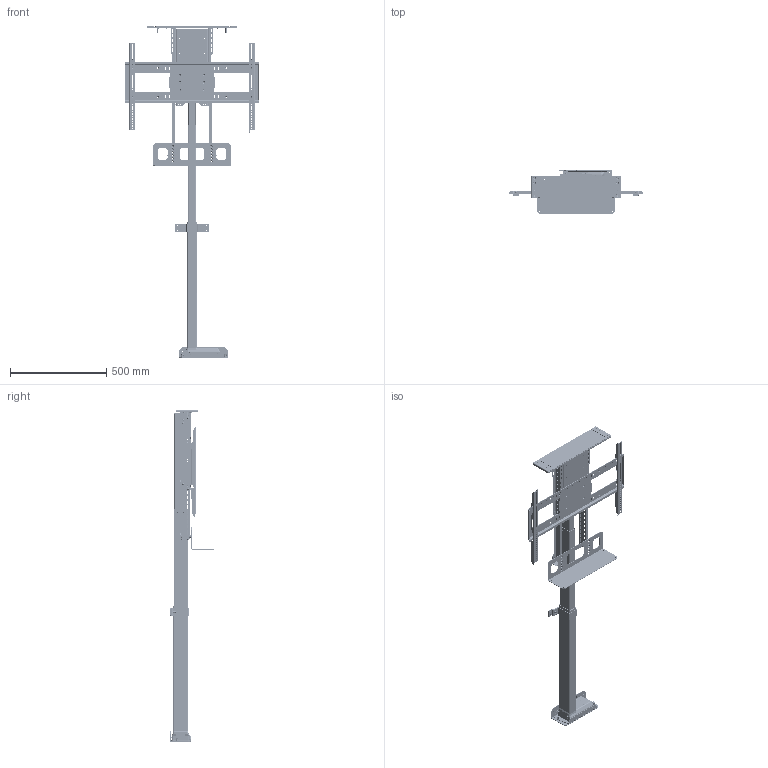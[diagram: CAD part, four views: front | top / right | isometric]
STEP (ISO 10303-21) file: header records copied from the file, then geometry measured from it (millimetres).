
FILE_DESCRIPTION(/* description */ ('STEP AP242','CAx-IF Rec.Pracs.---Representation and Presentation of Product Manufacturing Information (PMI)---4.0---2014-10-13','CAx-IF Rec.Pracs.---3D Tessellated Geometry---0.4---2014-09-14','2;1'),/* implementation_level */ '2;1');
FILE_NAME(/* name */ '63f8fa73155145463c398480',/* time_stamp */ '2023-02-24T17:57:13+00:00',/* author */ (''),/* organization */ (''),/* preprocessor_version */ 'ST-DEVELOPER v18.102',/* originating_system */ ' ',/* authorisation */ ' ');
FILE_SCHEMA (('AP242_MANAGED_MODEL_BASED_3D_ENGINEERING_MIM_LF { 1 0 10303 442 1 1 4 }'));
Products named in the file (64): L-65/s; Hex socket countersunk head screw M6x1 x 16; Hex socket countersunk head screw M6x1 x 12; Socket button head screw M6x1 x 12; WDS8151-215; ULS-NX-011 - ULS ACCESSORY MOUNTING BRACKET SPACER <2>; ULS-NX-011 - UL ACCESSORY MOUNTING BRACKET SPACER; PRODUCT_NAME_1; ULS Accessories <1>; 1/4in Spacer; ULS-NX-010 - ULS ACCESSORY MOUNTING BRACKET W PEMS <2>; PEM CLS-M6-2  ; ULS-NX-010 - UL ACCESSORY MOUNTING BRACKET; NEX-LM-013 - CENTER CHANNEL MOUNT - REV B; ULS-NX-010 - ULS ACCESSORY MOUNTING BRACKET W PEMS <1>; ULS-NX-108 - ULS SCREEN SUPPORT WELDMENT <1>; PEM CLS-M6-1  ; F-M6-3 M6 PEM NUT; ULS-NX-008 - UL SCREEN SUPPORT SHELL; ULS-NX-009 - ULS SCREEN SUPPORT TOP PLATE <1>; ULS-NX-009 - UL SCREEN SUPPORT TOP PLATE; Lid Plate Assembly W/ Lid Supports <1>; ULS-NX-012 - ULS LID SUPPORT W PEMS <1>; UL LID SUPPORT (ULS-NX-012); ULS-NX-012 - ULS LID SUPPORT W PEMS <2>; LID-FL-ULS - ULS Lid Plate Assembly <1>; ULS-NX-006 - Lid Adapter W/ Pin <1>; OLD_ULS-NX-006 - UL LID ADAPTER <1>; ULS-NX-006 - UL LID ADAPTER; FHS-273-24 PEM; FL Sub Asm <1>; 97069A106_Zinc-Plated Steel Spring Lock Washer; Plain washer large grade A M6; Hex socket countersunk head screw M6x1 x 8; ULS-NX-007 - UL LID PLATE EXTENDER; Hex nut grade C M6x1; NEX-LM-032 LID PIN GUIDE; ULS-NX-005 - UL LID PLATE W PEMS <1>; ULS-NX-005 - UL LID PLATE; PEM FHS-M6-15  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
Assembly tree (194 placements, depth 6):
  L-65/s
    Hex socket countersunk head screw M6x1 x 16  x4
    Hex socket countersunk head screw M6x1 x 12  x12
    Socket button head screw M6x1 x 12  x16
    WDS8151-215  x4
    ULS-NX-011 - ULS ACCESSORY MOUNTING BRACKET SPACER <2>
      ULS-NX-011 - UL ACCESSORY MOUNTING BRACKET SPACER
      PRODUCT_NAME_1  x2
    ULS Accessories <1>
      1/4in Spacer  x2
      ULS-NX-010 - ULS ACCESSORY MOUNTING BRACKET W PEMS <2>
        PEM CLS-M6-2    x4
        ULS-NX-010 - UL ACCESSORY MOUNTING BRACKET
      NEX-LM-013 - CENTER CHANNEL MOUNT - REV B
      ULS-NX-010 - ULS ACCESSORY MOUNTING BRACKET W PEMS <1>
        PEM CLS-M6-2    x4
        ULS-NX-010 - UL ACCESSORY MOUNTING BRACKET
    ULS-NX-108 - ULS SCREEN SUPPORT WELDMENT <1>
      PEM CLS-M6-1    x32
      F-M6-3 M6 PEM NUT
      ULS-NX-008 - UL SCREEN SUPPORT SHELL
      ULS-NX-009 - ULS SCREEN SUPPORT TOP PLATE <1>
        PEM CLS-M6-1    x4
        ULS-NX-009 - UL SCREEN SUPPORT TOP PLATE
    Lid Plate Assembly W/ Lid Supports <1>
      ULS-NX-012 - ULS LID SUPPORT W PEMS <1>
        PEM CLS-M6-2    x2
        UL LID SUPPORT (ULS-NX-012)
      ULS-NX-012 - ULS LID SUPPORT W PEMS <2>
        PEM CLS-M6-2    x2
        UL LID SUPPORT (ULS-NX-012)
      LID-FL-ULS - ULS Lid Plate Assembly <1>
        ULS-NX-006 - Lid Adapter W/ Pin <1>
          OLD_ULS-NX-006 - UL LID ADAPTER <1>
            ULS-NX-006 - UL LID ADAPTER
            FHS-273-24 PEM  x2
        FL Sub Asm <1>
          97069A106_Zinc-Plated Steel Spring Lock Washer  x4
          Plain washer large grade A M6  x4
          Hex socket countersunk head screw M6x1 x 8  x4
          ULS-NX-007 - UL LID PLATE EXTENDER  x2
          Hex nut grade C M6x1  x4
          NEX-LM-032 LID PIN GUIDE  x2
          ULS-NX-005 - UL LID PLATE W PEMS <1>
            PEM CLS-M6-2    x8
            ULS-NX-005 - UL LID PLATE
            PEM FHS-M6-15    x4
    SBP & VMB <1>
      PZ Pan head screw M5x0.80 x 25  x2
      ULS-NX-017 - UL SCREEN BACK PLATE
      ULS-NX-118 - UL VMB WELDMENT <2>
        Socket button head cap screw #6-32 x 0.188  x2
        VMB Washer  x4
        ULS-NX-019 - UL LEVEL ADJUSTMENT PLATE
        PEM BSO-632-10  ZI  x2
        90107A012  x2
        ULS-NX-018 - UL VERICAL MOUNTING BAR
        ULS-NX-020 - UL SCREEN LOCK
      ULS-NX-118 - UL VMB WELDMENT <1>
        VMB Washer  x4
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Bounding box: 698.5 x 228.39 x 1727.68 mm (x, y, z)
Volume: 9088888.2 mm3; surface area: 2100181.8 mm2
Topology: 173 solids, 173 shells, 12117 faces, 32357 edges, 21001 vertices
Faces by surface type: plane 8509, cylinder 2046, cone 767, bspline 535, torus 218, sphere 42
Full cylindrical faces by diameter (mm): 2.642 x4, 3.505 x4, 4.6 x2, 4.917 x61, 4.978 x4, 5 x16, 5.026 x4, 5.08 x4, 5.277 x8, 5.3 x6, 5.385 x12, 5.41 x8, 5.486 x4, 5.499 x2, 5.6 x4, 5.613 x6, 5.944 x4, 5.994 x2, 6 x70, 6.095 x2, 6.35 x16, 6.4 x4, 6.401 x2, 6.528 x4, 6.6 x2, 6.604 x4, 6.655 x4, 6.934 x2, 6.976 x1, 7.112 x2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
Entity records: 105669 total; most frequent: CARTESIAN_POINT 20315, DIRECTION 16750, ORIENTED_EDGE 16224, EDGE_CURVE 8112, AXIS2_PLACEMENT_3D 5729, VERTEX_POINT 5401, LINE 5292, VECTOR 5292
